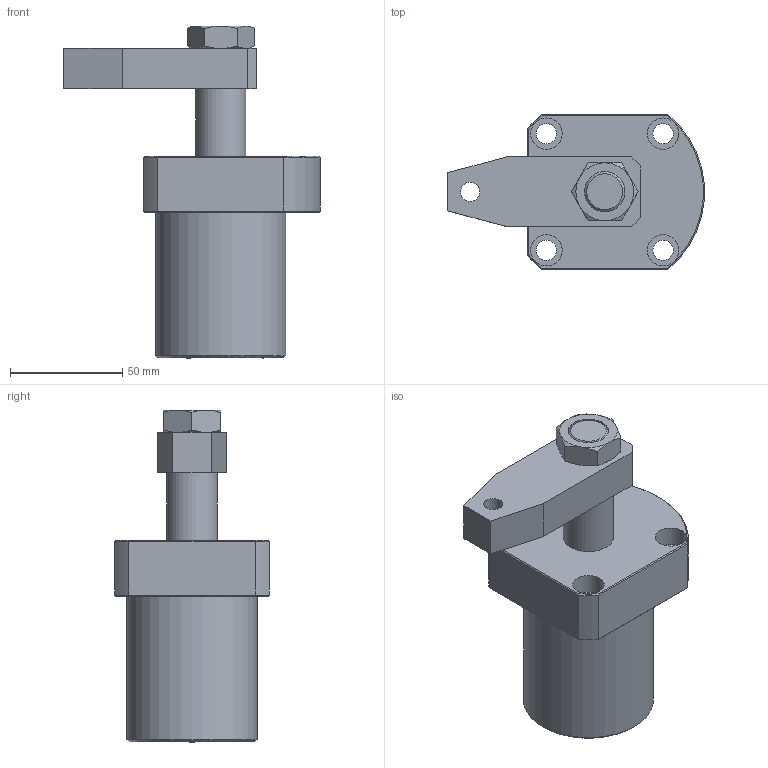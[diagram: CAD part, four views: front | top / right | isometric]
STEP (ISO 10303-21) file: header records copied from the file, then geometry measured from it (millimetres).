
FILE_DESCRIPTION(/* description */ ('Unknown'),/* implementation_level */ '2;1');
FILE_NAME(/* name */ 'HSC-FAM40S-A',/* time_stamp */ '2019-05-23T08:53:22+08:00',/* author */ ('Unknown'),/* organization */ ('Unknown'),/* preprocessor_version */ 'ST-DEVELOPER v16.7',/* originating_system */ 'DEX',/* authorisation */ $);
FILE_SCHEMA (('AUTOMOTIVE_DESIGN {1 0 10303 214 3 1 1}'));
Length unit declared in the file: millimetre
Products named in the file (4): HSC-FAM40S-A; HSC-FAM40S-CYLINDER; HSC-4002-S-AXLE CENTRE; HSC-40S-A
Assembly tree (3 placements, depth 2):
  HSC-FAM40S-A
    HSC-FAM40S-CYLINDER
    HSC-4002-S-AXLE CENTRE
    HSC-40S-A
Bounding box: 114.36 x 69 x 148 mm (x, y, z)
Volume: 316376.6 mm3; surface area: 61868.6 mm2
Topology: 3 solids, 3 shells, 104 faces, 217 edges, 137 vertices
Faces by surface type: plane 47, cone 28, cylinder 26, torus 3
Full cylindrical faces by diameter (mm): 3 x2, 4.1 x2, 8.5 x1, 9 x4, 12 x2, 14 x4, 18 x2, 19 x1, 22.4 x2, 40 x2, 58 x1
Entity records: 2953 total; most frequent: CARTESIAN_POINT 514, DIRECTION 432, ORIENTED_EDGE 336, AXIS2_PLACEMENT_3D 192, FACE_BOUND 172, EDGE_LOOP 170, EDGE_CURVE 168, VERTEX_POINT 126
